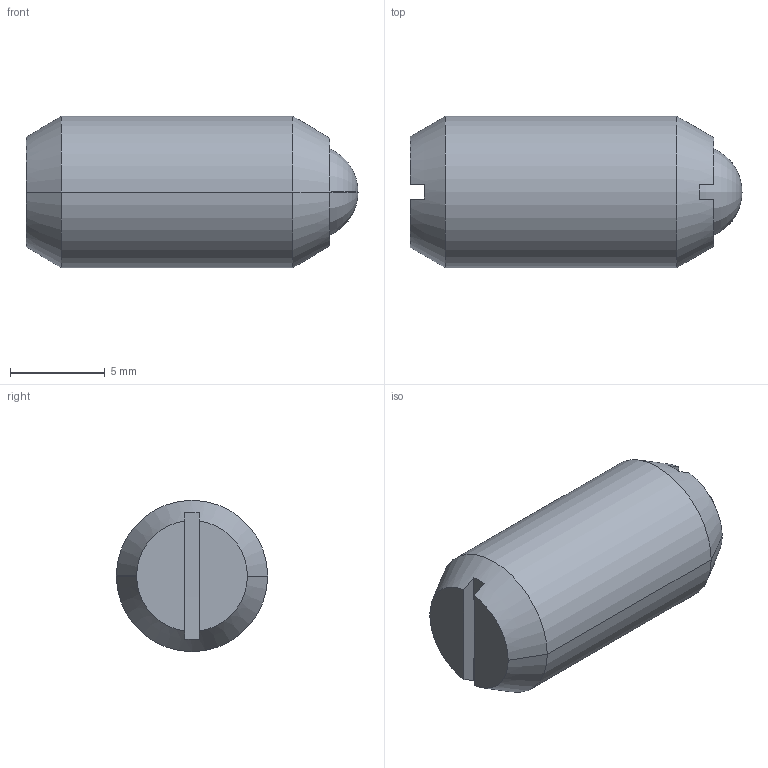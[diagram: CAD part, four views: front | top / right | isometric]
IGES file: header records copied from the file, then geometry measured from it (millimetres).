
Start section:  PTC IGES file: bm8a-part-3d.igs
Global section: file name: bm8a-part-3d.igs; native system: Pro/ENGINEER by Parametric Technology Corporation; preprocessor: 2002350; author: chant; organization: Unknown; date: 070201.135846; units: inch
Bounding box: 17.5 x 7.98 x 7.98 mm (x, y, z)
Surface area: 738.5 mm2 (no closed solid volume)
Topology: 0 solids, 0 shells, 24 faces, 174 edges, 220 vertices
Faces by surface type: revolution 13, bspline 11
